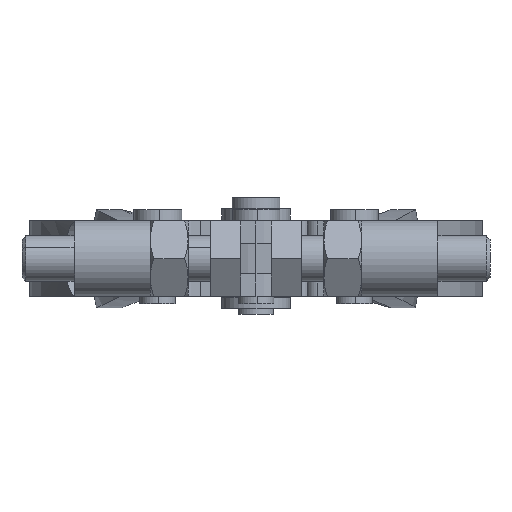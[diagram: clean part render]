
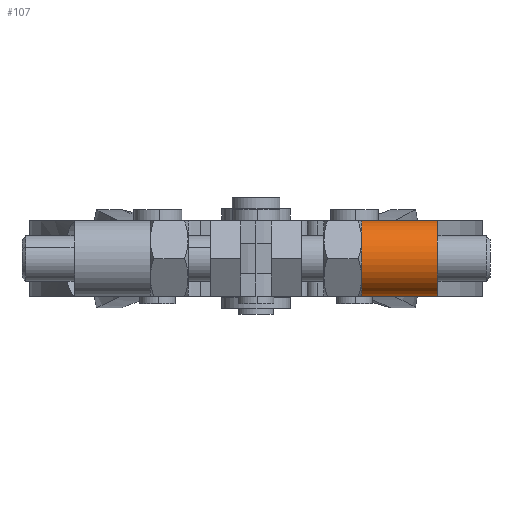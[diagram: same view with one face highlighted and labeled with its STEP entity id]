
A CAD part, left-side view. The second image highlights one B-rep face of the part: STEP entity #107.
In plain terms, the highlighted cylindrical face has radius 5 mm (diameter 10 mm), a partial arc.
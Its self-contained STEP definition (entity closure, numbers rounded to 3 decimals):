
#107 = ADVANCED_FACE ( 'NONE', ( #6825 ), #6827, .T. ) ;
#229 = ORIENTED_EDGE ( 'NONE', *, *, #2933, .F. ) ;
#231 = ORIENTED_EDGE ( 'NONE', *, *, #2944, .F. ) ;
#233 = ORIENTED_EDGE ( 'NONE', *, *, #2938, .T. ) ;
#235 = ORIENTED_EDGE ( 'NONE', *, *, #2943, .T. ) ;
#237 = ORIENTED_EDGE ( 'NONE', *, *, #2945, .T. ) ;
#239 = ORIENTED_EDGE ( 'NONE', *, *, #2947, .F. ) ;
#1939 = LINE ( 'NONE', #1940, #10988 ) ;
#1940 = CARTESIAN_POINT ( 'NONE',  ( -65., -1., 5. ) ) ;
#1947 = DIRECTION ( 'NONE',  ( 0., -1., 0. ) ) ;
#1954 = LINE ( 'NONE', #1955, #10997 ) ;
#1955 = CARTESIAN_POINT ( 'NONE',  ( -65., -1., -5. ) ) ;
#1964 = LINE ( 'NONE', #1976, #11001 ) ;
#1965 = DIRECTION ( 'NONE',  ( 0., -1., 0. ) ) ;
#1976 = CARTESIAN_POINT ( 'NONE',  ( -65., -17.139, -5. ) ) ;
#1977 = DIRECTION ( 'NONE',  ( 0., -1., 0. ) ) ;
#1978 = CARTESIAN_POINT ( 'NONE',  ( -65., -1., 0. ) ) ;
#1979 = DIRECTION ( 'NONE',  ( 0., 1., 0. ) ) ;
#1980 = DIRECTION ( 'NONE',  ( 0., 0., 1. ) ) ;
#1981 = LINE ( 'NONE', #1982, #11009 ) ;
#1982 = CARTESIAN_POINT ( 'NONE',  ( -65., -17.139, 5. ) ) ;
#1983 = CARTESIAN_POINT ( 'NONE',  ( -65., -11., 0. ) ) ;
#1984 = DIRECTION ( 'NONE',  ( 0., 1., 0. ) ) ;
#1985 = DIRECTION ( 'NONE',  ( 0., 0., -1. ) ) ;
#1989 = DIRECTION ( 'NONE',  ( 0., -1., 0. ) ) ;
#2933 = EDGE_CURVE ( 'NONE', #5756, #5750, #1939, .T. ) ;
#2938 = EDGE_CURVE ( 'NONE', #5753, #5747, #1954, .T. ) ;
#2943 = EDGE_CURVE ( 'NONE', #5747, #5745, #1964, .T. ) ;
#2944 = EDGE_CURVE ( 'NONE', #5753, #5756, #11004, .T. ) ;
#2945 = EDGE_CURVE ( 'NONE', #5745, #5743, #11005, .T. ) ;
#2947 = EDGE_CURVE ( 'NONE', #5750, #5743, #1981, .T. ) ;
#5743 = VERTEX_POINT ( 'NONE', #9990 ) ;
#5745 = VERTEX_POINT ( 'NONE', #9992 ) ;
#5747 = VERTEX_POINT ( 'NONE', #9994 ) ;
#5750 = VERTEX_POINT ( 'NONE', #9997 ) ;
#5753 = VERTEX_POINT ( 'NONE', #10000 ) ;
#5756 = VERTEX_POINT ( 'NONE', #10003 ) ;
#6823 = DIRECTION ( 'NONE',  ( 0., -1., 0. ) ) ;
#6825 = FACE_OUTER_BOUND ( 'NONE', #8790, .T. ) ;
#6826 = CARTESIAN_POINT ( 'NONE',  ( -65., -1., 0. ) ) ;
#6827 = CYLINDRICAL_SURFACE ( 'NONE', #7438, 5. ) ;
#6828 = DIRECTION ( 'NONE',  ( 0., 0., -1. ) ) ;
#7438 = AXIS2_PLACEMENT_3D ( 'NONE', #6826, #6823, #6828 ) ;
#8790 = EDGE_LOOP ( 'NONE', ( #229, #231, #233, #235, #237, #239 ) ) ;
#9990 = CARTESIAN_POINT ( 'NONE',  ( -65., -11., 5. ) ) ;
#9992 = CARTESIAN_POINT ( 'NONE',  ( -65., -11., -5. ) ) ;
#9994 = CARTESIAN_POINT ( 'NONE',  ( -65., -2., -5. ) ) ;
#9997 = CARTESIAN_POINT ( 'NONE',  ( -65., -2., 5. ) ) ;
#10000 = CARTESIAN_POINT ( 'NONE',  ( -65., -1., -5. ) ) ;
#10003 = CARTESIAN_POINT ( 'NONE',  ( -65., -1., 5. ) ) ;
#10988 = VECTOR ( 'NONE', #1947, 1000. ) ;
#10997 = VECTOR ( 'NONE', #1965, 1000. ) ;
#11001 = VECTOR ( 'NONE', #1977, 1000. ) ;
#11004 = CIRCLE ( 'NONE', #11006, 5. ) ;
#11005 = CIRCLE ( 'NONE', #11008, 5. ) ;
#11006 = AXIS2_PLACEMENT_3D ( 'NONE', #1978, #1979, #1980 ) ;
#11008 = AXIS2_PLACEMENT_3D ( 'NONE', #1983, #1984, #1985 ) ;
#11009 = VECTOR ( 'NONE', #1989, 1000. ) ;
